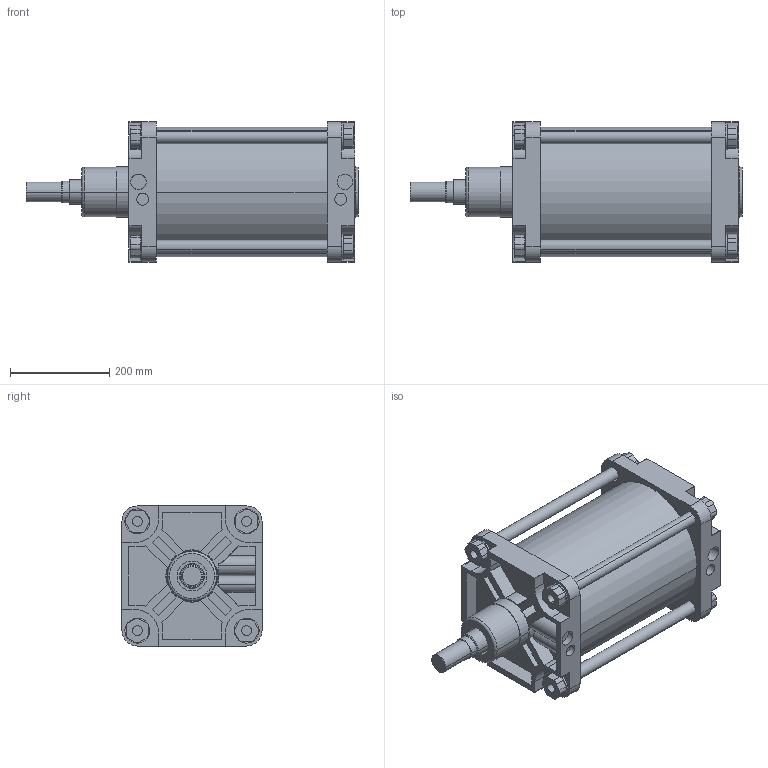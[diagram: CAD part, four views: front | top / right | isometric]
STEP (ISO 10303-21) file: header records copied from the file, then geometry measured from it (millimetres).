
FILE_DESCRIPTION(('CATIA V5 STEP Exchange'),'2;1');
FILE_NAME('D:\stp file for catalog\PNC\250\PNC 250-50-250.stp','2015-10-25T14:05:26+00:00',('none'),('none'),'Version 5-6 Release 2012','CATIA V5 STEP AP203','none');
FILE_SCHEMA(('CONFIG_CONTROL_DESIGN'));
Length unit declared in the file: millimetre
Products named in the file (1): PNC 250-50-250-00
Assembly tree (2 placements, depth 2):
  PNC 250-50-250-00
    #58
    #15305
Bounding box: 668 x 282 x 282 mm (x, y, z)
Volume: 11324959.2 mm3; surface area: 1526412 mm2
Topology: 2 solids, 2 shells, 556 faces, 1428 edges, 944 vertices
Faces by surface type: plane 316, cylinder 196, cone 42, torus 2
Entity records: 15751 total; most frequent: CARTESIAN_POINT 3340, ORIENTED_EDGE 2856, DIRECTION 1929, EDGE_CURVE 1428, VERTEX_POINT 944, VECTOR 904, LINE 904, AXIS2_PLACEMENT_3D 718
